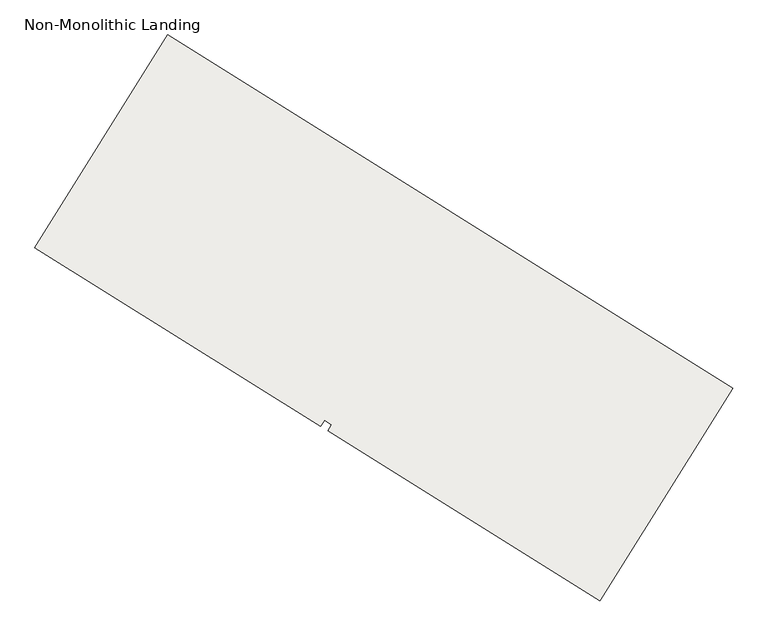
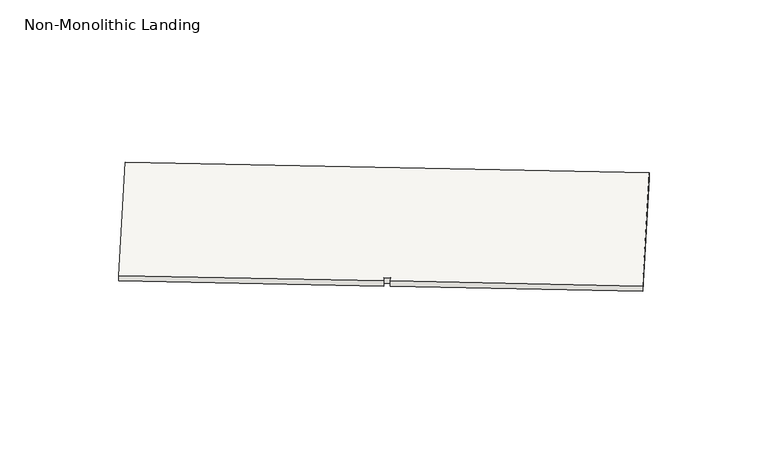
"""IFC4 building model written with IfcOpenShell, lengths in millimetres: slab geometry, Non-Monolithic Landing."""

from ifc_helpers import new_model, si_unit, frame, origin, place, context, project, spatial, polyline, outline, extrude, source, transform, mapped, element, save


def non_monolithic_landing_a9921148(model_context):
    return source(origin(), model_context, "Body", "SweptSolid", [
        extrude(outline(polyline([(45923.4413421, -49449.3404692), (46718.3202385, -48177.268325), (50096.7344612, -50288.3358308), (49301.8555649, -51560.4079751), (47675.9956027, -50544.4579142), (47698.4607568, -50508.5061523), (47654.6854494, -50481.1523043), (47632.2202952, -50517.1040662), (45923.4413421, -49449.3404692)])), frame((0.0, 0.0, 1750.0), z_axis=(0.0, 0.0, 1.0), x_axis=(1.0, 0.0, 0.0)), (0.0, 0.0, 1.0), 50.0),
    ])


if __name__ == "__main__":
    model = new_model("IFC4")
    model_context = context("Model", 3, world=origin())
    ifc_project = project(units=[si_unit("LENGTHUNIT", "METRE", prefix="MILLI")], contexts=[model_context])
    site = spatial("IfcSite", under=ifc_project)
    building = spatial("IfcBuilding", under=site)
    placement = place(None, origin())
    non_monolithic_landing_shape = non_monolithic_landing_a9921148(model_context)
    element("IfcSlab", 1, ObjectType="Non-Monolithic Landing", at=placement, inside=building, context=model_context, shape_type="MappedRepresentation", body=[
        mapped(non_monolithic_landing_shape, transform((0.0, 0.0, 0.0), x_axis=(1.0, 0.0, 0.0), y_axis=(0.0, 1.0, 0.0), z_axis=(0.0, 0.0, 1.0))),
    ])
    save(model, "model.ifc")
